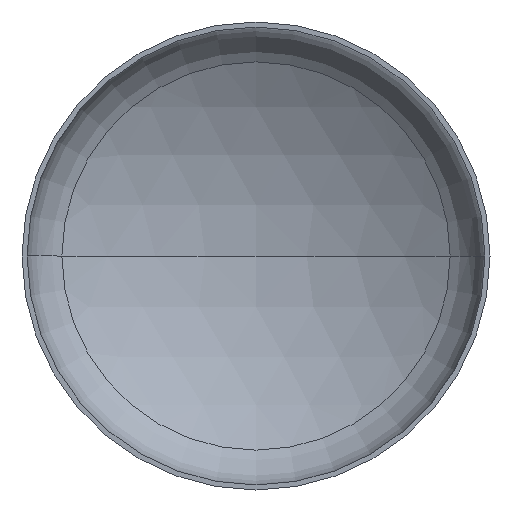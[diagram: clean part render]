
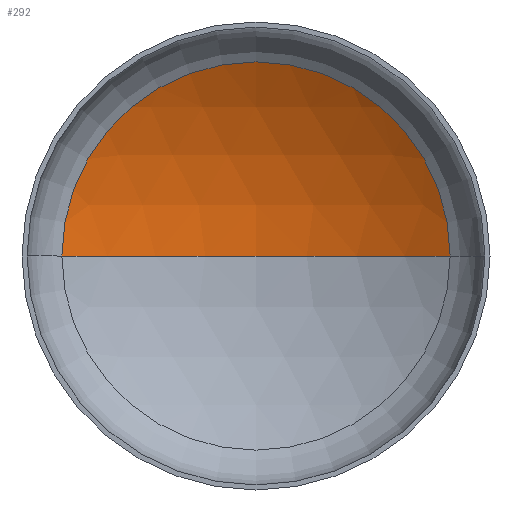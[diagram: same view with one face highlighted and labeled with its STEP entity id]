
A CAD part, front view. The second image highlights one B-rep face of the part: STEP entity #292.
In plain terms, the highlighted spherical face has radius 3600 mm.
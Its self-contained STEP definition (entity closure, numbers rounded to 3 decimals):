
#7 = EDGE_LOOP ( 'NONE', ( #117, #109, #50 ) ) ;
#14 = AXIS2_PLACEMENT_3D ( 'NONE', #114, #142, #144 ) ;
#20 = AXIS2_PLACEMENT_3D ( 'NONE', #201, #367, #226 ) ;
#27 = AXIS2_PLACEMENT_3D ( 'NONE', #244, #245, #37 ) ;
#36 = AXIS2_PLACEMENT_3D ( 'NONE', #345, #160, #166 ) ;
#37 = DIRECTION ( 'NONE',  ( -1., 0., 0. ) ) ;
#46 = VERTEX_POINT ( 'NONE', #287 ) ;
#50 = ORIENTED_EDGE ( 'NONE', *, *, #358, .T. ) ;
#51 = VERTEX_POINT ( 'NONE', #254 ) ;
#96 = VERTEX_POINT ( 'NONE', #297 ) ;
#109 = ORIENTED_EDGE ( 'NONE', *, *, #343, .T. ) ;
#111 = FACE_OUTER_BOUND ( 'NONE', #7, .T. ) ;
#114 = CARTESIAN_POINT ( 'NONE',  ( 0., 744.314, 0. ) ) ;
#117 = ORIENTED_EDGE ( 'NONE', *, *, #346, .F. ) ;
#142 = DIRECTION ( 'NONE',  ( 0., -1., 0. ) ) ;
#144 = DIRECTION ( 'NONE',  ( 1., 0., 0. ) ) ;
#160 = DIRECTION ( 'NONE',  ( 0., 0., 1. ) ) ;
#166 = DIRECTION ( 'NONE',  ( 1., 0., 0. ) ) ;
#201 = CARTESIAN_POINT ( 'NONE',  ( 0., -2334.148, 0. ) ) ;
#226 = DIRECTION ( 'NONE',  ( -1., 0., 0. ) ) ;
#244 = CARTESIAN_POINT ( 'NONE',  ( 0., -2334.148, 0. ) ) ;
#245 = DIRECTION ( 'NONE',  ( 0., 0., -1. ) ) ;
#251 = CIRCLE ( 'NONE', #20, 3600. ) ;
#254 = CARTESIAN_POINT ( 'NONE',  ( 0., 1265.852, 0. ) ) ;
#287 = CARTESIAN_POINT ( 'NONE',  ( -1866.299, 744.314, 0. ) ) ;
#292 = ADVANCED_FACE ( 'NONE', ( #111 ), #331, .F. ) ;
#297 = CARTESIAN_POINT ( 'NONE',  ( 1866.299, 744.314, 0. ) ) ;
#331 = SPHERICAL_SURFACE ( 'NONE', #27, 3600. ) ;
#343 = EDGE_CURVE ( 'NONE', #51, #96, #251, .T. ) ;
#345 = CARTESIAN_POINT ( 'NONE',  ( 0., -2334.148, 0. ) ) ;
#346 = EDGE_CURVE ( 'NONE', #51, #46, #375, .T. ) ;
#358 = EDGE_CURVE ( 'NONE', #96, #46, #379, .T. ) ;
#367 = DIRECTION ( 'NONE',  ( 0., 0., -1. ) ) ;
#375 = CIRCLE ( 'NONE', #36, 3600. ) ;
#379 = CIRCLE ( 'NONE', #14, 1866.299 ) ;
